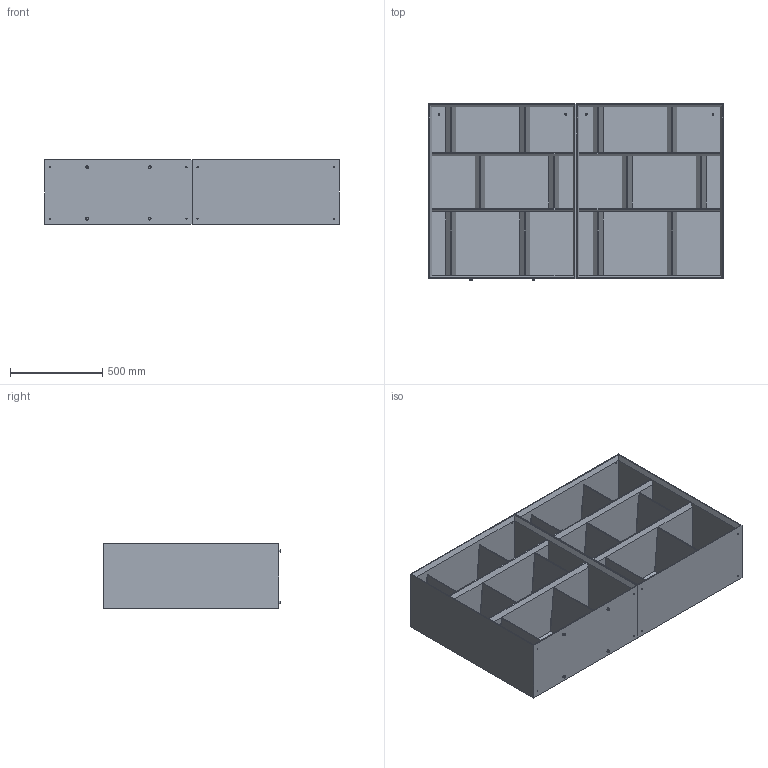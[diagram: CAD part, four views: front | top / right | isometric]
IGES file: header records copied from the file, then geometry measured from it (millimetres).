
Start section: SolidWorks IGES file using analytic representation for surfaces
Global section: file name: Y:\eforma\TECNICO\SOLIDWORKS\E-FORMA\08-LIBRERIE\LIBRERIA BENDY\02 parts\BL11S_Bendy Ax2_160x35x95h.IGS; native system: SolidWorks 2022; preprocessor: SolidWorks 2022; author: eforma.tech; date: 240806.102901; units: millimetre
Bounding box: 1600 x 957 x 350 mm (x, y, z)
Volume: 74420365 mm3; surface area: 14191030.6 mm2
Topology: 34 solids, 34 shells, 744 faces, 1764 edges, 1084 vertices
Faces by surface type: plane 456, revolution 288
